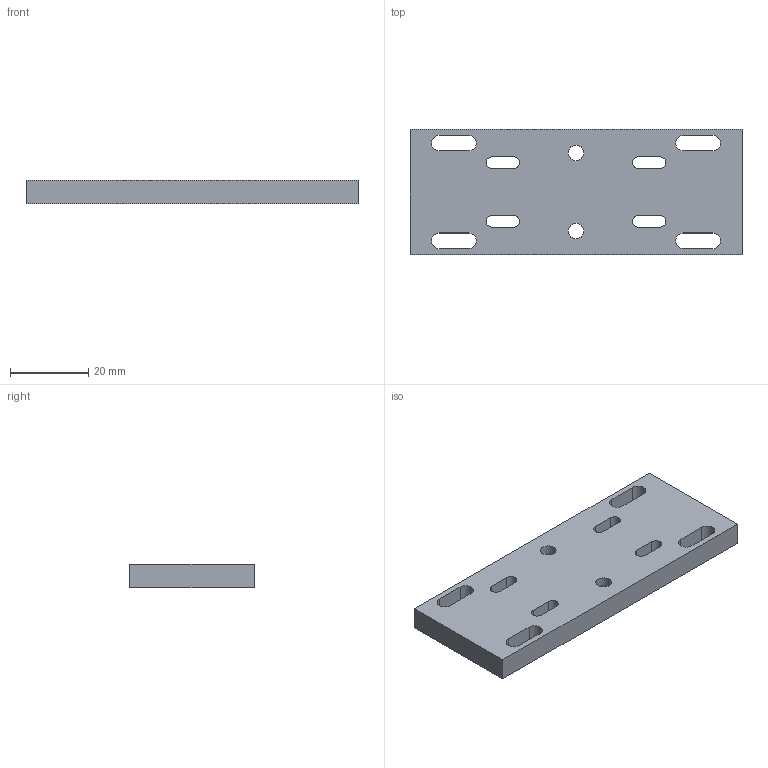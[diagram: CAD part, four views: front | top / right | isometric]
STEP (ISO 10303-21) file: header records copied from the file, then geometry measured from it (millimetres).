
FILE_DESCRIPTION(/* description */ (''),/* implementation_level */ '2;1');
FILE_NAME(/* name */ '',/* time_stamp */ '2025-11-21T22:05:50+08:00',/* author */ ('Q'),/* organization */ (''),/* preprocessor_version */ 'ST-DEVELOPER v19.2',/* originating_system */ 'Autodesk Inventor 2024',/* authorisation */ '');
FILE_SCHEMA (('AUTOMOTIVE_DESIGN { 1 0 10303 214 3 1 1 }'));
Length unit declared in the file: millimetre
Products named in the file (1): eom转接
Bounding box: 85 x 32 x 6 mm (x, y, z)
Volume: 14472 mm3; surface area: 7611.2 mm2
Topology: 1 solids, 1 shells, 44 faces, 174 edges, 192 vertices
Faces by surface type: plane 24, cylinder 20
Full cylindrical faces by diameter (mm): 4 x2, 6 x2
Entity records: 1742 total; most frequent: CARTESIAN_POINT 373, DIRECTION 286, ORIENTED_EDGE 240, EDGE_CURVE 120, AXIS2_PLACEMENT_3D 103, LINE 80, VECTOR 80, VERTEX_POINT 80
